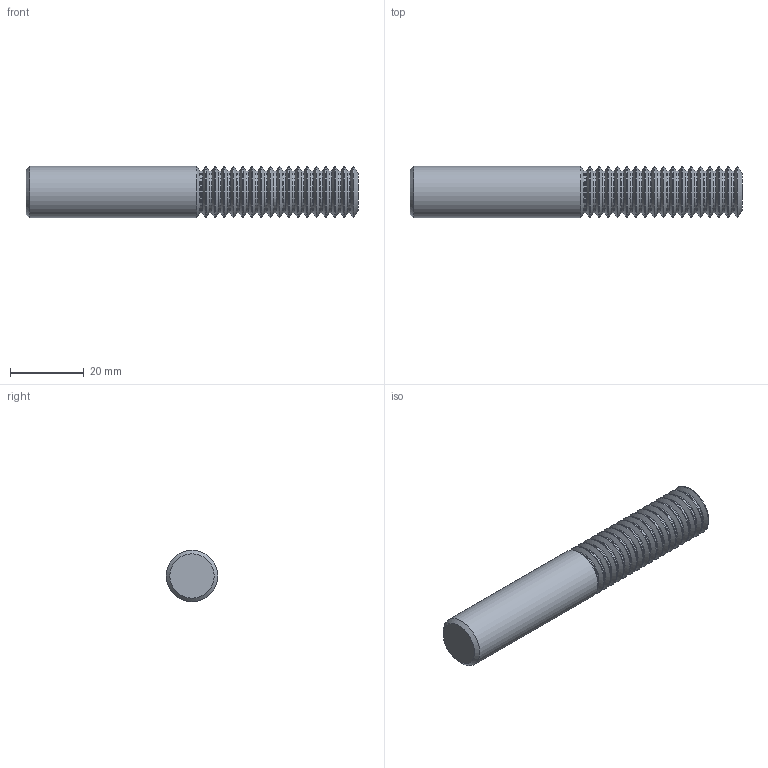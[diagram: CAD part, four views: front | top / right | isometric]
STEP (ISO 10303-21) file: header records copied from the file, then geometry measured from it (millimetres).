
FILE_DESCRIPTION(/* description */ (''),/* implementation_level */ '2;1');
FILE_NAME(/* name */ '00031027-TDM',/* time_stamp */ '2024-02-09T11:45:30+01:00',/* author */ (''),/* organization */ (''),/* preprocessor_version */ 'ST-DEVELOPER v16.5',/* originating_system */ 'HiCAD 2017 2201.0 Build 268',/* authorisation */ '');
FILE_SCHEMA (('AUTOMOTIVE_DESIGN { 1 0 10303 214 1 1 1 1 }'));
Length unit declared in the file: millimetre
Products named in the file (3): Root; ROTATIONSTEIL_1
Assembly tree (2 placements, depth 3):
  Root
    ROTATIONSTEIL_1
      ROTATIONSTEIL_1
Bounding box: 90 x 14 x 14 mm (x, y, z)
Volume: 12355 mm3; surface area: 5176.8 mm2
Topology: 2 solids, 2 shells, 110 faces, 216 edges, 110 vertices
Faces by surface type: cone 36, cylinder 36, torus 34, plane 4
Full cylindrical faces by diameter (mm): 11.322 x18, 13.95 x17, 14 x1
Entity records: 3324 total; most frequent: DIRECTION 444, CARTESIAN_POINT 330, AXIS2_PLACEMENT_3D 222, PRESENTATION_STYLE_ASSIGNMENT 218, COLOUR_RGB 218, DRAUGHTING_PRE_DEFINED_CURVE_FONT 216, CURVE_STYLE 216, OVER_RIDING_STYLED_ITEM 216
